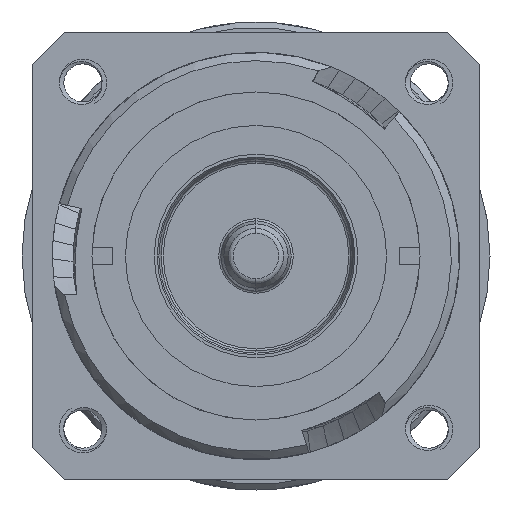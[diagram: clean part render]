
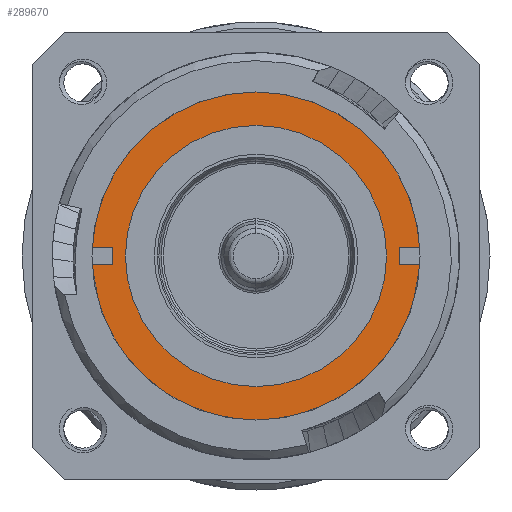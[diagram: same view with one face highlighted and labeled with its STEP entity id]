
A CAD part, left-side view. The second image highlights one B-rep face of the part: STEP entity #289670.
In plain terms, the highlighted planar face has unit normal (-1, 0, 0).
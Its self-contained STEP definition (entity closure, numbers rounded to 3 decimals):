
#93770=CARTESIAN_POINT('',(17.8,0.,0.));
#93771=DIRECTION('',(1.,0.,0.));
#93772=DIRECTION('',(0.,-0.999,0.055));
#93773=AXIS2_PLACEMENT_3D('',#93770,#93771,#93772);
#93775=CARTESIAN_POINT('',(17.8,0.,0.));
#93776=DIRECTION('',(-1.,0.,0.));
#93777=DIRECTION('',(0.,0.,-1.));
#93778=AXIS2_PLACEMENT_3D('',#93775,#93776,#93777);
#93780=CARTESIAN_POINT('',(17.8,0.,0.));
#93781=DIRECTION('',(-1.,0.,0.));
#93782=DIRECTION('',(0.,0.,1.));
#93783=AXIS2_PLACEMENT_3D('',#93780,#93781,#93782);
#93801=CARTESIAN_POINT('',(17.8,0.,0.));
#93802=DIRECTION('',(-1.,0.,0.));
#93803=DIRECTION('',(0.,-0.999,0.055));
#93804=AXIS2_PLACEMENT_3D('',#93801,#93802,#93803);
#94951=CARTESIAN_POINT('',(17.8,15.052,0.825));
#94952=VERTEX_POINT('',#94951);
#94957=CARTESIAN_POINT('',(17.8,-15.052,0.825));
#94958=VERTEX_POINT('',#94957);
#94999=CARTESIAN_POINT('',(17.8,0.,-12.));
#95000=CARTESIAN_POINT('',(17.8,0.,12.));
#95001=VERTEX_POINT('',#94999);
#95002=VERTEX_POINT('',#95000);
#289654=CARTESIAN_POINT('',(17.8,0.,0.));
#289655=DIRECTION('',(-1.,0.,0.));
#289656=DIRECTION('',(0.,1.,0.));
#289657=AXIS2_PLACEMENT_3D('',#289654,#289655,#289656);
#289658=PLANE('310',#289657);
#289660=ORIENTED_EDGE('9167',*,*,#289659,.F.);
#289661=ORIENTED_EDGE('9176',*,*,#289621,.T.);
#289662=EDGE_LOOP('310',(#289660,#289661));
#289663=FACE_OUTER_BOUND('310',#289662,.F.);
#289665=ORIENTED_EDGE('9742',*,*,#289664,.T.);
#289667=ORIENTED_EDGE('9743',*,*,#289666,.T.);
#289668=EDGE_LOOP('310',(#289665,#289667));
#289669=FACE_BOUND('310',#289668,.F.);
#93774=CIRCLE('9176',#93773,15.075);
#93779=CIRCLE('9742',#93778,12.);
#93784=CIRCLE('9743',#93783,12.);
#93805=CIRCLE('9167',#93804,15.075);
#289621=EDGE_CURVE('9176',#94958,#94952,#93774,.T.);
#289659=EDGE_CURVE('9167',#94958,#94952,#93805,.T.);
#289664=EDGE_CURVE('9742',#95001,#95002,#93779,.T.);
#289666=EDGE_CURVE('9743',#95002,#95001,#93784,.T.);
#289670=ADVANCED_FACE('310',(#289663,#289669),#289658,.T.);
